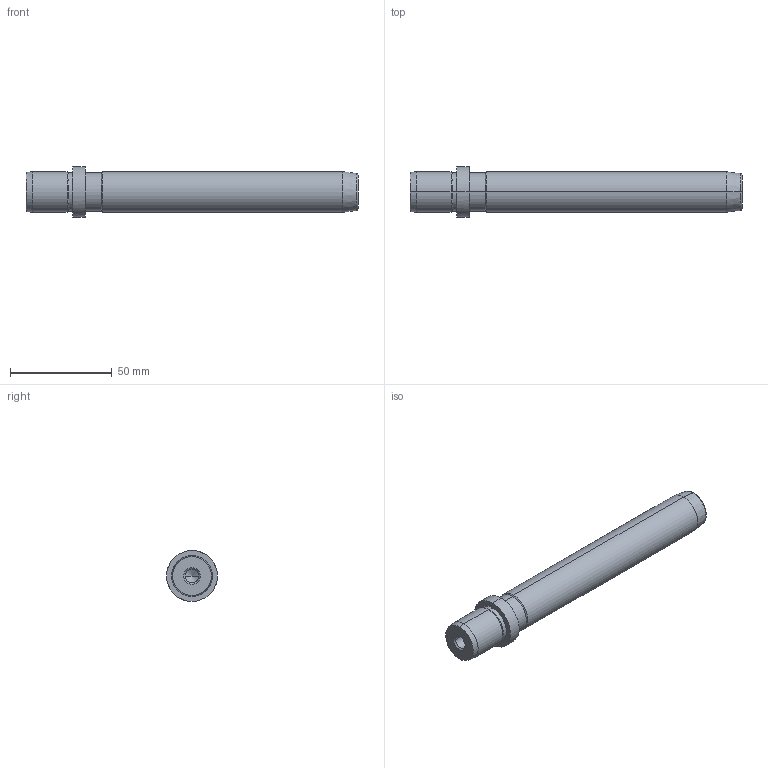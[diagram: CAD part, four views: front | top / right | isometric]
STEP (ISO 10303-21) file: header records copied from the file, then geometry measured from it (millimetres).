
FILE_DESCRIPTION(('CATIA V5 STEP Exchange'),'2;1');
FILE_NAME('C:\Users\Utente\Desktop\IO LAVORO\3D X SITO CF\X SITO\718\718-20x140.stp','2021-01-02T15:25:13+00:00',('none'),('none'),'CATIA Version 5 Release 20 GA (IN-10)','CATIA V5 STEP AP203','none');
FILE_SCHEMA(('CONFIG_CONTROL_DESIGN'));
Length unit declared in the file: millimetre
Products named in the file (1): 718-20x140
Bounding box: 163 x 25 x 25 mm (x, y, z)
Volume: 49933.3 mm3; surface area: 12235 mm2
Topology: 1 solids, 1 shells, 36 faces, 100 edges, 66 vertices
Faces by surface type: cone 16, cylinder 14, plane 4, torus 2
Entity records: 1291 total; most frequent: CARTESIAN_POINT 362, ORIENTED_EDGE 192, DIRECTION 157, EDGE_CURVE 96, AXIS2_PLACEMENT_3D 92, VERTEX_POINT 66, CIRCLE 55, EDGE_LOOP 40
